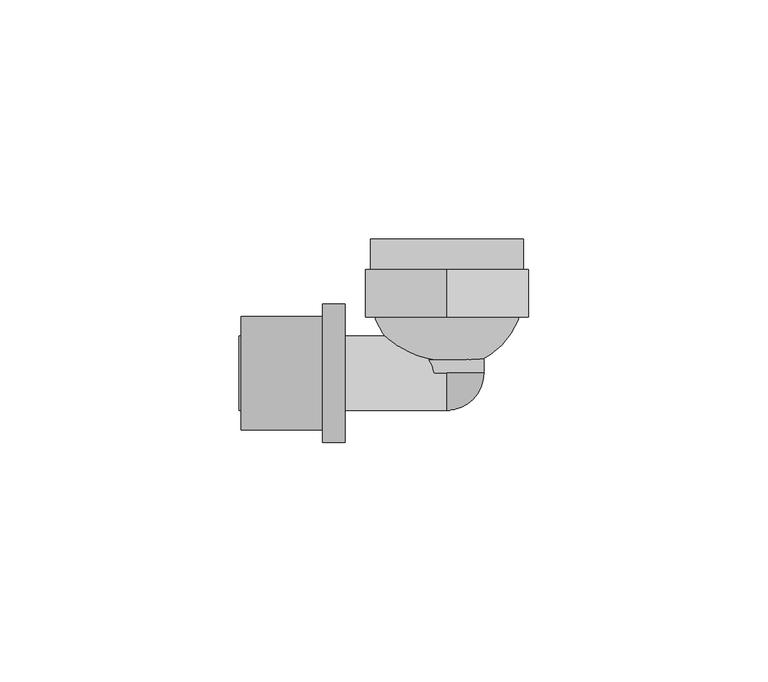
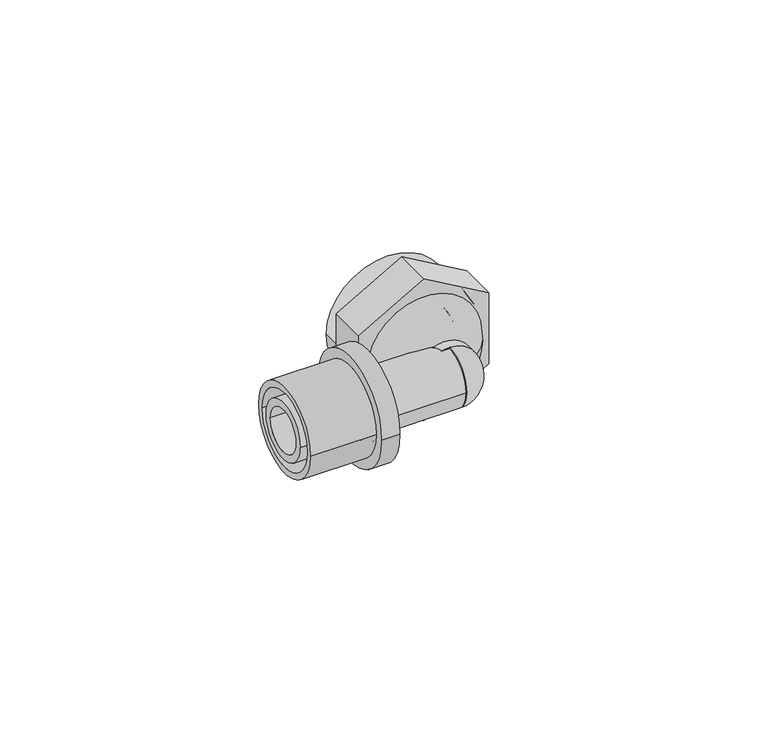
"""IFC4 building model written with IfcOpenShell, lengths in millimetres: pipe fitting geometry, FASTLOC_Elbow with female thread EX+ : FSL A internal AT."""

from ifc_helpers import new_model, si_unit, point, frame, origin, origin_2d, place, context, project, spatial, polyline, circle_curve, ellipse_curve, trimmed, segment, composite_curve, outline, extrude, source, transform, mapped, element, save
from ifc_brep_helpers import plane_surface, cylinder_surface, revolved_surface, advanced_brep


def pipe_fitting_73c1a440(model_context):
    return source(origin(), model_context, "Body", "SolidModel", [
        advanced_brep(
        [(-26.0, -14.5, 0.0), (-26.0, 14.5, 0.0), (-21.3, 14.5, 0.0), (-21.3, -14.5, 0.0), (-43.0, -11.85, 0.0), (-43.0, 11.85, 0.0), (-26.0, 11.85, 0.0), (-26.0, -11.85, 0.0), (-21.3, -10.15, 0.0), (-21.3, 10.15, 0.0), (-43.0, 10.15, 0.0), (-43.0, -10.15, 0.0)],
        [
            (0, 1, circle_curve(frame((-26.0, 0.0, 0.0), z_axis=(1.0, 0.0, 0.0), x_axis=(0.0, 1.0, 0.0)), 14.5)),
            (1, 2),
            (2, 3, circle_curve(frame((-21.3, 0.0, 0.0), z_axis=(-1.0, 0.0, 0.0), x_axis=(0.0, 1.0, 0.0)), 14.5)),
            (3, 0),
            (4, 5, circle_curve(frame((-43.0, 0.0, 0.0), z_axis=(1.0, 0.0, 0.0), x_axis=(0.0, 1.0, 0.0)), 11.85)),
            (5, 6),
            (6, 7, circle_curve(frame((-26.0, 0.0, 0.0), z_axis=(-1.0, 0.0, 0.0), x_axis=(0.0, 1.0, 0.0)), 11.85)),
            (7, 4),
            (8, 9, circle_curve(frame((-21.3, 0.0, 0.0), z_axis=(1.0, 0.0, 0.0), x_axis=(0.0, 1.0, 0.0)), 10.15)),
            (9, 10),
            (10, 11, circle_curve(frame((-43.0, 0.0, 0.0), z_axis=(-1.0, 0.0, 0.0), x_axis=(0.0, 1.0, 0.0)), 10.15)),
            (11, 8),
            (1, 0, circle_curve(frame((-26.0, 0.0, 0.0), z_axis=(1.0, 0.0, 0.0), x_axis=(0.0, -1.0, 0.0)), 14.5)),
            (3, 2, circle_curve(frame((-21.3, 0.0, 0.0), z_axis=(-1.0, 0.0, 0.0), x_axis=(0.0, -1.0, 0.0)), 14.5)),
            (6, 7, circle_curve(frame((-26.0, 0.0, 0.0), z_axis=(1.0, 0.0, 0.0), x_axis=(0.0, -1.0, 0.0)), 11.85)),
            (5, 4, circle_curve(frame((-43.0, 0.0, 0.0), z_axis=(1.0, 0.0, 0.0), x_axis=(0.0, -1.0, 0.0)), 11.85)),
            (10, 11, circle_curve(frame((-43.0, 0.0, 0.0), z_axis=(1.0, 0.0, 0.0), x_axis=(0.0, -1.0, 0.0)), 10.15)),
            (9, 8, circle_curve(frame((-21.3, 0.0, 0.0), z_axis=(1.0, 0.0, 0.0), x_axis=(0.0, -1.0, 0.0)), 10.15)),
        ],
        [
            cylinder_surface(frame((-21.3, 0.0, 0.0), z_axis=(-1.0, 0.0, 0.0), x_axis=(0.0, 1.0, 0.0)), 14.5),
            cylinder_surface(frame((-21.3, 0.0, 0.0), z_axis=(-1.0, 0.0, 0.0), x_axis=(0.0, 1.0, 0.0)), 11.85),
            revolved_surface(polyline([(-43.0, 10.15, 0.0), (-21.3, 10.15, 0.0)]), (-21.3, 0.0, 0.0), (-1.0, 0.0, 0.0)),
            cylinder_surface(frame((-21.3, 0.0, 0.0), z_axis=(-1.0, 0.0, 0.0), x_axis=(0.0, -1.0, 0.0)), 14.5),
            plane_surface(frame((-26.0, 0.0, 0.0), z_axis=(-1.0, 0.0, 0.0), x_axis=(0.0, -1.0, 0.0))),
            cylinder_surface(frame((-21.3, 0.0, 0.0), z_axis=(-1.0, 0.0, 0.0), x_axis=(0.0, -1.0, 0.0)), 11.85),
            plane_surface(frame((-43.0, 0.0, 0.0), z_axis=(-1.0, 0.0, 0.0), x_axis=(0.0, -1.0, 0.0))),
            revolved_surface(polyline([(-43.0, -10.15, 0.0), (-21.3, -10.15, 0.0)]), (-21.3, 0.0, 0.0), (-1.0, 0.0, 0.0)),
            plane_surface(frame((-21.3, 0.0, 0.0), z_axis=(1.0, 0.0, 0.0), x_axis=(0.0, -1.0, 0.0))),
        ],
        [
            (0, [[1, 2, 3, 4]]),
            (1, [[5, 6, 7, 8]]),
            (2, [[9, 10, 11, 12]]),
            (3, [[13, -4, 14, -2]]),
            (4, [[-13, -1], [15, -7]]),
            (5, [[16, -8, -15, -6]]),
            (6, [[-16, -5], [17, -11]]),
            (7, [[18, -12, -17, -10]]),
            (8, [[-14, -3], [-18, -9]]),
        ],
    ),
        advanced_brep(
        [(0.0, 0.0, 7.75), (0.0, 0.0, 3.875), (0.0, -3.875, 0.0), (0.0, -7.75, 0.0), (0.0, 0.0, -7.75), (0.0, 0.0, -3.875)],
        [
            (0, 1),
            (1, 2, circle_curve(frame((0.0, 0.0, 0.0), z_axis=(1.0, 0.0, 0.0), x_axis=(0.0, 0.0, 1.0)), 3.875)),
            (2, 3),
            (3, 0, circle_curve(frame((0.0, 0.0, 0.0), z_axis=(-1.0, 0.0, 0.0), x_axis=(0.0, 0.0, 1.0)), 7.75)),
            (4, 3, circle_curve(frame((0.0, 0.0, 0.0), z_axis=(-1.0, 0.0, 0.0), x_axis=(0.0, 0.0, -1.0)), 7.75)),
            (2, 5, circle_curve(frame((0.0, 0.0, 0.0), z_axis=(1.0, 0.0, 0.0), x_axis=(0.0, 0.0, -1.0)), 3.875)),
            (5, 4),
            (5, 1, circle_curve(frame((0.0, 0.0, 0.0), z_axis=(0.0, -1.0, 0.0), x_axis=(0.0, 0.0, 1.0)), 3.875)),
            (0, 4, circle_curve(frame((0.0, 0.0, 0.0), z_axis=(0.0, 1.0, 0.0), x_axis=(0.0, 0.0, 1.0)), 7.75)),
        ],
        [
            plane_surface(frame((0.0, 0.0, 0.0), z_axis=(-1.0, 0.0, 0.0), x_axis=(0.0, 0.0, 1.0))),
            plane_surface(frame((0.0, 0.0, 0.0), z_axis=(-1.0, 0.0, 0.0), x_axis=(0.0, 0.0, -1.0))),
            plane_surface(frame((0.0, 0.0, 0.0), z_axis=(0.0, 1.0, 0.0), x_axis=(0.0, 0.0, 1.0))),
            revolved_surface(trimmed(ellipse_curve(frame((0.0, 0.0, 0.0), z_axis=(1.0, 0.0, 0.0), x_axis=(0.0, 0.0, 1.0)), 3.875, 3.875), [point((0.0, 0.0, 3.875))], [point((0.0, -3.875, 0.0))], True, "CARTESIAN"), (0.0, 0.0, 0.0), (0.0, 1.0, 0.0)),
            revolved_surface(trimmed(ellipse_curve(frame((0.0, 0.0, 0.0), z_axis=(-1.0, 0.0, 0.0), x_axis=(0.0, 0.0, 1.0)), 7.75, 7.75), [point((0.0, -7.75, 0.0))], [point((0.0, 0.0, 7.75))], True, "CARTESIAN"), (0.0, 0.0, 0.0), (0.0, 1.0, 0.0)),
        ],
        [
            (0, [[1, 2, 3, 4]]),
            (1, [[5, -3, 6, 7]]),
            (2, [[8, -1, 9, -7]]),
            (3, [[-2, -8, -6]]),
            (4, [[-9, -4, -5]]),
        ],
    ),
        extrude(outline(polyline([(-9.8149546, 17.0), (9.8149546, 17.0), (19.6299092, 0.0), (9.8149546, -17.0), (-9.8149546, -17.0), (-19.6299092, 0.0), (-9.8149546, 17.0)])), frame((0.0, 11.7, 0.0), z_axis=(0.0, 1.0, 0.0), x_axis=(0.0, 0.0, 1.0)), (0.0, 0.0, 1.0), 10.0),
        advanced_brep(
        [(0.5, 1.0078144, 0.0), (-0.5, 1.0078144, 0.0), (-16.0, 17.0, 0.0), (16.0, 17.0, 0.0), (0.5, 7.0125078, 0.0), (-0.5, 7.0125078, 0.0), (10.0, 17.0, 0.0), (-10.0, 17.0, 0.0), (10.0, 28.0, 0.0), (-10.0, 28.0, 0.0), (-16.0, 28.0, 0.0), (16.0, 28.0, 0.0)],
        [
            (0, 1, circle_curve(frame((0.0, 1.0078144, 0.0), z_axis=(0.0, 1.0, 0.0), x_axis=(-1.0, 0.0, 0.0)), 0.5)),
            (1, 2, circle_curve(frame((0.0, 17.0, 0.0), z_axis=(0.0, 0.0, -1.0), x_axis=(0.0, 1.0, 0.0)), 16.0)),
            (2, 3, circle_curve(frame((0.0, 17.0, 0.0), z_axis=(0.0, -1.0, 0.0), x_axis=(-1.0, 0.0, 0.0)), 16.0)),
            (3, 0, circle_curve(frame((0.0, 17.0, 0.0), z_axis=(0.0, 0.0, -1.0), x_axis=(0.0, 1.0, 0.0)), 16.0)),
            (4, 5, circle_curve(frame((0.0, 7.0125078, 0.0), z_axis=(0.0, 1.0, 0.0), x_axis=(-1.0, 0.0, 0.0)), 0.5)),
            (5, 1),
            (0, 4),
            (6, 7, circle_curve(frame((0.0, 17.0, 0.0), z_axis=(0.0, 1.0, 0.0), x_axis=(-1.0, 0.0, 0.0)), 10.0)),
            (7, 5, circle_curve(frame((0.0, 17.0, 0.0), z_axis=(0.0, 0.0, 1.0), x_axis=(0.0, 1.0, 0.0)), 10.0)),
            (4, 6, circle_curve(frame((0.0, 17.0, 0.0), z_axis=(0.0, 0.0, 1.0), x_axis=(0.0, 1.0, 0.0)), 10.0)),
            (8, 9, circle_curve(frame((0.0, 28.0, 0.0), z_axis=(0.0, 1.0, 0.0), x_axis=(-1.0, 0.0, 0.0)), 10.0)),
            (9, 7),
            (6, 8),
            (2, 10),
            (10, 11, circle_curve(frame((0.0, 28.0, 0.0), z_axis=(0.0, -1.0, 0.0), x_axis=(-1.0, 0.0, 0.0)), 16.0)),
            (11, 3),
            (1, 0, circle_curve(frame((0.0, 1.0078144, 0.0), z_axis=(0.0, 1.0, 0.0), x_axis=(1.0, 0.0, 0.0)), 0.5)),
            (3, 2, circle_curve(frame((0.0, 17.0, 0.0), z_axis=(0.0, -1.0, 0.0), x_axis=(1.0, 0.0, 0.0)), 16.0)),
            (5, 4, circle_curve(frame((0.0, 7.0125078, 0.0), z_axis=(0.0, 1.0, 0.0), x_axis=(1.0, 0.0, 0.0)), 0.5)),
            (7, 6, circle_curve(frame((0.0, 17.0, 0.0), z_axis=(0.0, 1.0, 0.0), x_axis=(1.0, 0.0, 0.0)), 10.0)),
            (9, 8, circle_curve(frame((0.0, 28.0, 0.0), z_axis=(0.0, 1.0, 0.0), x_axis=(1.0, 0.0, 0.0)), 10.0)),
            (10, 11, circle_curve(frame((0.0, 28.0, 0.0), z_axis=(0.0, 1.0, 0.0), x_axis=(1.0, 0.0, 0.0)), 16.0)),
        ],
        [
            revolved_surface(trimmed(ellipse_curve(frame((0.0, 17.0, 0.0), z_axis=(0.0, 0.0, 1.0), x_axis=(0.0, 1.0, 0.0)), 16.0, 16.0), [point((-16.0, 17.0, 0.0))], [point((-0.5, 1.0078144, 0.0))], True, "CARTESIAN"), (0.0, 11.7, 0.0), (0.0, -1.0, 0.0)),
            revolved_surface(polyline([(-0.5, 1.0078144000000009, 0.0), (-0.5, 7.0125078, 0.0)]), (0.0, 11.7, 0.0), (0.0, -1.0, 0.0)),
            revolved_surface(trimmed(ellipse_curve(frame((0.0, 17.0, 0.0), z_axis=(0.0, 0.0, -1.0), x_axis=(0.0, 1.0, 0.0)), 10.0, 10.0), [point((-0.5, 7.0125078, 0.0))], [point((-10.0, 17.0, 0.0))], True, "CARTESIAN"), (0.0, 11.7, 0.0), (0.0, -1.0, 0.0)),
            revolved_surface(polyline([(-10.0, 17.0, 0.0), (-10.0, 28.0, 0.0)]), (0.0, 11.7, 0.0), (0.0, -1.0, 0.0)),
            cylinder_surface(frame((0.0, 11.7, 0.0), z_axis=(0.0, -1.0, 0.0), x_axis=(-1.0, 0.0, 0.0)), 16.0),
            revolved_surface(trimmed(ellipse_curve(frame((0.0, 17.0, 0.0), z_axis=(0.0, 0.0, -1.0), x_axis=(0.0, 1.0, 0.0)), 16.0, 16.0), [point((16.0, 17.0, 0.0))], [point((0.5, 1.0078144, 0.0))], True, "CARTESIAN"), (0.0, 11.7, 0.0), (0.0, -1.0, 0.0)),
            revolved_surface(polyline([(0.5, 1.0078144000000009, 0.0), (0.5, 7.0125078, 0.0)]), (0.0, 11.7, 0.0), (0.0, -1.0, 0.0)),
            revolved_surface(trimmed(ellipse_curve(frame((0.0, 17.0, 0.0), z_axis=(0.0, 0.0, 1.0), x_axis=(0.0, 1.0, 0.0)), 10.0, 10.0), [point((0.5, 7.0125078, 0.0))], [point((10.0, 17.0, 0.0))], True, "CARTESIAN"), (0.0, 11.7, 0.0), (0.0, -1.0, 0.0)),
            revolved_surface(polyline([(10.0, 17.0, 0.0), (10.0, 28.0, 0.0)]), (0.0, 11.7, 0.0), (0.0, -1.0, 0.0)),
            plane_surface(frame((0.0, 28.0, 0.0), z_axis=(0.0, 1.0, 0.0), x_axis=(1.0, 0.0, 0.0))),
            cylinder_surface(frame((0.0, 11.7, 0.0), z_axis=(0.0, -1.0, 0.0), x_axis=(1.0, 0.0, 0.0)), 16.0),
        ],
        [
            (0, [[1, 2, 3, 4]]),
            (1, [[5, 6, -1, 7]]),
            (2, [[8, 9, -5, 10]]),
            (3, [[11, 12, -8, 13]]),
            (4, [[-3, 14, 15, 16]]),
            (5, [[17, -4, 18, -2]]),
            (6, [[19, -7, -17, -6]]),
            (7, [[20, -10, -19, -9]]),
            (8, [[21, -13, -20, -12]]),
            (9, [[22, -15], [-21, -11]]),
            (10, [[-18, -16, -22, -14]]),
        ],
    ),
        extrude(outline(composite_curve([segment(trimmed(circle_curve(origin_2d(), 7.75), [point((0.0, -7.75))], [point((0.0, 7.75))], False, "CARTESIAN"), True, "CONTINUOUS"), segment(trimmed(circle_curve(origin_2d(), 7.75), [point((0.0, 7.75))], [point((0.0, -7.75))], False, "CARTESIAN"), True, "CONTINUOUS")], self_intersect=False), holes=[composite_curve([segment(trimmed(circle_curve(origin_2d(), 5.75), [point((0.0, -5.75))], [point((0.0, 5.75))], True, "CARTESIAN"), True, "CONTINUOUS"), segment(trimmed(circle_curve(origin_2d(), 5.75), [point((0.0, 5.75))], [point((0.0, -5.75))], True, "CARTESIAN"), True, "CONTINUOUS")], self_intersect=False)]), frame((0.0, 0.0, 0.0), z_axis=(0.0, 1.0, 0.0), x_axis=(0.0, 0.0, 1.0)), (0.0, 0.0, 1.0), 11.7),
        advanced_brep(
        [(-26.0, 7.75, 0.0), (-26.0, -7.75, 0.0), (-43.4, -7.75, 0.0), (-43.4, 7.75, 0.0), (-23.3, 8.8, 0.0), (-23.3, -8.8, 0.0), (-26.0, -8.8, 0.0), (-26.0, 8.8, 0.0), (0.0, 7.75, 0.0), (0.0, -7.75, 0.0), (-23.3, -7.75, 0.0), (-23.3, 7.75, 0.0), (-43.4, 5.75, 0.0), (-43.4, -5.75, 0.0), (0.0, -5.75, 0.0), (0.0, 5.75, 0.0)],
        [
            (0, 1, circle_curve(frame((-26.0, 0.0, 0.0), z_axis=(-1.0, 0.0, 0.0), x_axis=(0.0, -1.0, 0.0)), 7.75)),
            (1, 2),
            (2, 3, circle_curve(frame((-43.4, 0.0, 0.0), z_axis=(1.0, 0.0, 0.0), x_axis=(0.0, -1.0, 0.0)), 7.75)),
            (3, 0),
            (4, 5, circle_curve(frame((-23.3, 0.0, 0.0), z_axis=(-1.0, 0.0, 0.0), x_axis=(0.0, -1.0, 0.0)), 8.8)),
            (5, 6),
            (6, 7, circle_curve(frame((-26.0, 0.0, 0.0), z_axis=(1.0, 0.0, 0.0), x_axis=(0.0, -1.0, 0.0)), 8.8)),
            (7, 4),
            (8, 9, circle_curve(frame((0.0, 0.0, 0.0), z_axis=(-1.0, 0.0, 0.0), x_axis=(0.0, -1.0, 0.0)), 7.75)),
            (9, 10),
            (10, 11, circle_curve(frame((-23.3, 0.0, 0.0), z_axis=(1.0, 0.0, 0.0), x_axis=(0.0, -1.0, 0.0)), 7.75)),
            (11, 8),
            (12, 13, circle_curve(frame((-43.4, 0.0, 0.0), z_axis=(-1.0, 0.0, 0.0), x_axis=(0.0, -1.0, 0.0)), 5.75)),
            (13, 14),
            (14, 15, circle_curve(frame((0.0, 0.0, 0.0), z_axis=(1.0, 0.0, 0.0), x_axis=(0.0, -1.0, 0.0)), 5.75)),
            (15, 12),
            (2, 3, circle_curve(frame((-43.4, 0.0, 0.0), z_axis=(-1.0, 0.0, 0.0), x_axis=(0.0, 1.0, 0.0)), 7.75)),
            (12, 13, circle_curve(frame((-43.4, 0.0, 0.0), z_axis=(1.0, 0.0, 0.0), x_axis=(0.0, 1.0, 0.0)), 5.75)),
            (1, 0, circle_curve(frame((-26.0, 0.0, 0.0), z_axis=(-1.0, 0.0, 0.0), x_axis=(0.0, 1.0, 0.0)), 7.75)),
            (6, 7, circle_curve(frame((-26.0, 0.0, 0.0), z_axis=(-1.0, 0.0, 0.0), x_axis=(0.0, 1.0, 0.0)), 8.8)),
            (5, 4, circle_curve(frame((-23.3, 0.0, 0.0), z_axis=(-1.0, 0.0, 0.0), x_axis=(0.0, 1.0, 0.0)), 8.8)),
            (10, 11, circle_curve(frame((-23.3, 0.0, 0.0), z_axis=(-1.0, 0.0, 0.0), x_axis=(0.0, 1.0, 0.0)), 7.75)),
            (9, 8, circle_curve(frame((0.0, 0.0, 0.0), z_axis=(-1.0, 0.0, 0.0), x_axis=(0.0, 1.0, 0.0)), 7.75)),
            (14, 15, circle_curve(frame((0.0, 0.0, 0.0), z_axis=(-1.0, 0.0, 0.0), x_axis=(0.0, 1.0, 0.0)), 5.75)),
        ],
        [
            cylinder_surface(frame((0.0, 0.0, 0.0), z_axis=(1.0, 0.0, 0.0), x_axis=(0.0, -1.0, 0.0)), 7.75),
            cylinder_surface(frame((0.0, 0.0, 0.0), z_axis=(1.0, 0.0, 0.0), x_axis=(0.0, -1.0, 0.0)), 8.8),
            revolved_surface(polyline([(0.0, -5.75, 0.0), (-43.4, -5.75, 0.0)]), (0.0, 0.0, 0.0), (1.0, 0.0, 0.0)),
            plane_surface(frame((-43.4, 0.0, 0.0), z_axis=(-1.0, 0.0, 0.0), x_axis=(0.0, 1.0, 0.0))),
            cylinder_surface(frame((0.0, 0.0, 0.0), z_axis=(1.0, 0.0, 0.0), x_axis=(0.0, 1.0, 0.0)), 7.75),
            plane_surface(frame((-26.0, 0.0, 0.0), z_axis=(-1.0, 0.0, 0.0), x_axis=(0.0, 1.0, 0.0))),
            cylinder_surface(frame((0.0, 0.0, 0.0), z_axis=(1.0, 0.0, 0.0), x_axis=(0.0, 1.0, 0.0)), 8.8),
            plane_surface(frame((-23.3, 0.0, 0.0), z_axis=(1.0, 0.0, 0.0), x_axis=(0.0, 1.0, 0.0))),
            plane_surface(frame((0.0, 0.0, 0.0), z_axis=(1.0, 0.0, 0.0), x_axis=(0.0, 1.0, 0.0))),
            revolved_surface(polyline([(0.0, 5.75, 0.0), (-43.4, 5.75, 0.0)]), (0.0, 0.0, 0.0), (1.0, 0.0, 0.0)),
        ],
        [
            (0, [[1, 2, 3, 4]]),
            (1, [[5, 6, 7, 8]]),
            (0, [[9, 10, 11, 12]]),
            (2, [[13, 14, 15, 16]]),
            (3, [[17, -3], [18, -13]]),
            (4, [[19, -4, -17, -2]]),
            (5, [[20, -7], [-19, -1]]),
            (6, [[21, -8, -20, -6]]),
            (7, [[-21, -5], [22, -11]]),
            (4, [[23, -12, -22, -10]]),
            (8, [[-23, -9], [24, -15]]),
            (9, [[-18, -16, -24, -14]]),
        ],
    ),
    ])


if __name__ == "__main__":
    model = new_model("IFC4")
    model_context = context("Model", 3, world=origin())
    ifc_project = project(units=[si_unit("LENGTHUNIT", "METRE", prefix="MILLI")], contexts=[model_context])
    site = spatial("IfcSite", under=ifc_project)
    building = spatial("IfcBuilding", under=site)
    placement = place(None, origin())
    pipe_fitting_shape = pipe_fitting_73c1a440(model_context)
    element("IfcPipeFitting", 1, ObjectType="FASTLOC_Elbow with female thread EX+ : FSL A internal AT", at=placement, inside=building, context=model_context, shape_type="MappedRepresentation", body=[
        mapped(pipe_fitting_shape, transform((0.0, 0.0, 0.0), x_axis=(1.0, 0.0, 0.0), y_axis=(0.0, 1.0, 0.0), z_axis=(0.0, 0.0, 1.0))),
    ])
    save(model, "model.ifc")
